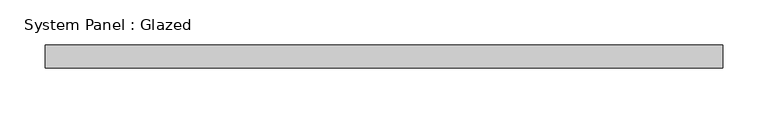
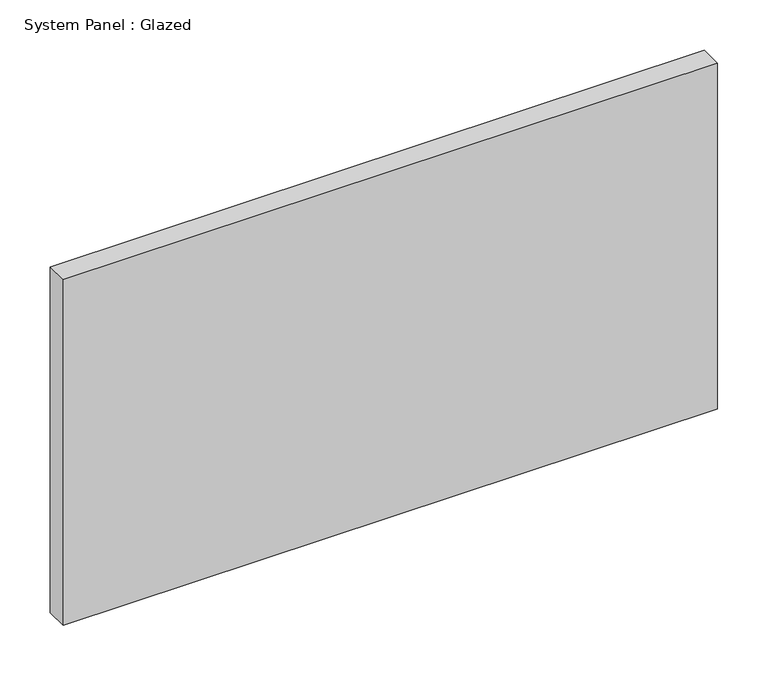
"""IFC4 building model written with IfcOpenShell, lengths in millimetres: plate geometry, System Panel : Glazed."""

from ifc_helpers import new_model, si_unit, origin, origin_with_axes, place, context, project, spatial, polyline, outline, extrude, source, transform, mapped, element, save


def system_panel_glazed_0122b756(model_context):
    return source(origin(), model_context, "Body", "SweptSolid", [
        extrude(outline(polyline([(374.8688463, 19.05), (-374.8688463, 19.05), (-374.8688463, 44.45), (374.8688463, 44.45), (374.8688463, 19.05)])), origin_with_axes(), (0.0, 0.0, 1.0), 419.1),
    ])


if __name__ == "__main__":
    model = new_model("IFC4")
    model_context = context("Model", 3, world=origin())
    ifc_project = project(units=[si_unit("LENGTHUNIT", "METRE", prefix="MILLI")], contexts=[model_context])
    site = spatial("IfcSite", under=ifc_project)
    building = spatial("IfcBuilding", under=site)
    placement = place(None, origin())
    system_panel_glazed_shape = system_panel_glazed_0122b756(model_context)
    element("IfcPlate", 1, ObjectType="System Panel : Glazed", at=placement, inside=building, context=model_context, shape_type="MappedRepresentation", body=[
        mapped(system_panel_glazed_shape, transform((0.0, 0.0, 0.0), x_axis=(1.0, 0.0, 0.0), y_axis=(0.0, 1.0, 0.0), z_axis=(0.0, 0.0, 1.0))),
    ])
    save(model, "model.ifc")
